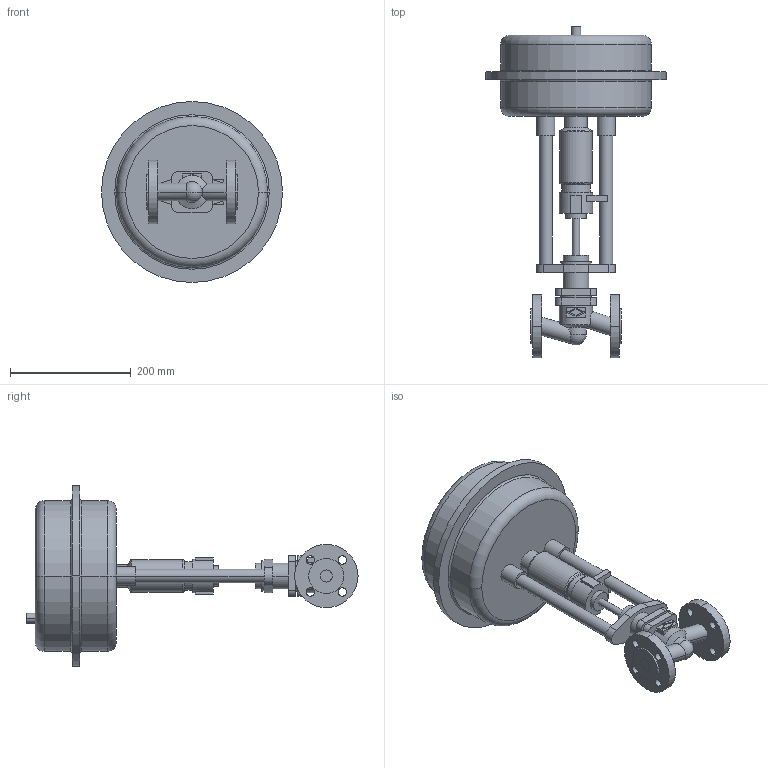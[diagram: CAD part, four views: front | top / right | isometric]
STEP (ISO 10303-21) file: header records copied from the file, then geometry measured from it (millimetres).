
FILE_DESCRIPTION(('OneSpaceDesigner STEP Export'),'2;1');
FILE_NAME('c000001466.stp','2005-02-15T 9:21:16',(''),(''),'OneSpace Designer STEP processor (Jan. 2003) for AP203(Solid Model)','OneSpace Designer 12.01D 09-Jul-2004 (C) CoCreate Software GmbH','');
FILE_SCHEMA(('CONFIG_CONTROL_DESIGN'));
Length unit declared in the file: millimetre
Products named in the file (2): 1; 2
Bounding box: 300 x 550.1 x 300 mm (x, y, z)
Volume: 8024071.7 mm3; surface area: 407250.5 mm2
Topology: 2 solids, 2 shells, 181 faces, 436 edges, 284 vertices
Faces by surface type: cylinder 84, plane 73, torus 16, cone 6, sphere 2
Entity records: 5013 total; most frequent: CARTESIAN_POINT 952, ORIENTED_EDGE 868, DIRECTION 727, EDGE_CURVE 434, VERTEX_POINT 284, AXIS2_PLACEMENT_3D 264, EDGE_LOOP 224, VECTOR 199
